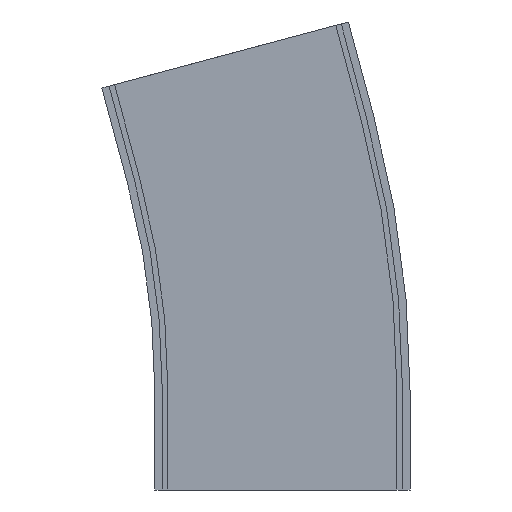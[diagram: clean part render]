
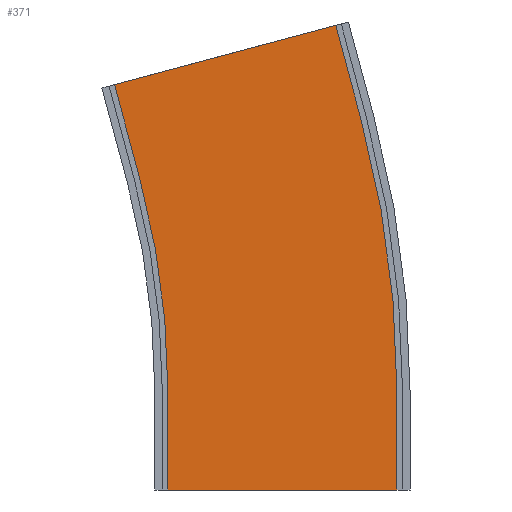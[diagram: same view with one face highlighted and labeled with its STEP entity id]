
A CAD part, left-side view. The second image highlights one B-rep face of the part: STEP entity #371.
In plain terms, the highlighted planar face has unit normal (-1, 0, 0).
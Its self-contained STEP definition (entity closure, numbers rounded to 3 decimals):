
#6 = DIRECTION ( 'NONE',  ( 0., 1., 0. ) ) ;
#10 = CIRCLE ( 'NONE', #487, 561.25 ) ;
#26 = VERTEX_POINT ( 'NONE', #61 ) ;
#36 = VECTOR ( 'NONE', #279, 1000. ) ;
#61 = CARTESIAN_POINT ( 'NONE',  ( -173., 76.2, 166.057 ) ) ;
#75 = CARTESIAN_POINT ( 'NONE',  ( -173., -42.126, 197.762 ) ) ;
#109 = CARTESIAN_POINT ( 'NONE',  ( -173., -61.25, 0. ) ) ;
#117 = DIRECTION ( 'NONE',  ( 0., 0., 1. ) ) ;
#123 = CARTESIAN_POINT ( 'NONE',  ( -173., -61.25, 52.5 ) ) ;
#133 = PLANE ( 'NONE',  #421 ) ;
#166 = VERTEX_POINT ( 'NONE', #291 ) ;
#168 = DIRECTION ( 'NONE',  ( 0., 0., -1. ) ) ;
#176 = VECTOR ( 'NONE', #1296, 1000. ) ;
#184 = CARTESIAN_POINT ( 'NONE',  ( -173., 61.25, 52.5 ) ) ;
#203 = DIRECTION ( 'NONE',  ( 0., 0., 1. ) ) ;
#233 = DIRECTION ( 'NONE',  ( 1., 0., 0. ) ) ;
#234 = DIRECTION ( 'NONE',  ( 0., -0.966, 0.259 ) ) ;
#275 = VERTEX_POINT ( 'NONE', #1060 ) ;
#279 = DIRECTION ( 'NONE',  ( 0., 0.259, 0.966 ) ) ;
#291 = CARTESIAN_POINT ( 'NONE',  ( -173., -61.25, 0. ) ) ;
#295 = ORIENTED_EDGE ( 'NONE', *, *, #982, .T. ) ;
#302 = DIRECTION ( 'NONE',  ( 0., 0., -1. ) ) ;
#309 = CARTESIAN_POINT ( 'NONE',  ( -173., 61.25, 52.5 ) ) ;
#369 = EDGE_CURVE ( 'NONE', #275, #675, #10, .T. ) ;
#371 = ADVANCED_FACE ( 'NONE', ( #1090 ), #133, .F. ) ;
#407 = LINE ( 'NONE', #309, #936 ) ;
#421 = AXIS2_PLACEMENT_3D ( 'NONE', #123, #233, #6 ) ;
#455 = LINE ( 'NONE', #75, #1050 ) ;
#487 = AXIS2_PLACEMENT_3D ( 'NONE', #564, #656, #117 ) ;
#494 = ORIENTED_EDGE ( 'NONE', *, *, #746, .F. ) ;
#507 = LINE ( 'NONE', #600, #36 ) ;
#554 = CIRCLE ( 'NONE', #793, 438.75 ) ;
#564 = CARTESIAN_POINT ( 'NONE',  ( -173., 500., 52.5 ) ) ;
#600 = CARTESIAN_POINT ( 'NONE',  ( -173., 76.2, 166.057 ) ) ;
#605 = CARTESIAN_POINT ( 'NONE',  ( -173., -28.538, 248.473 ) ) ;
#616 = CARTESIAN_POINT ( 'NONE',  ( -173., -61.25, 52.5 ) ) ;
#654 = LINE ( 'NONE', #1085, #1362 ) ;
#656 = DIRECTION ( 'NONE',  ( -1., 0., 0. ) ) ;
#675 = VERTEX_POINT ( 'NONE', #929 ) ;
#676 = CARTESIAN_POINT ( 'NONE',  ( -173., 89.788, 216.768 ) ) ;
#712 = ORIENTED_EDGE ( 'NONE', *, *, #1013, .T. ) ;
#718 = CARTESIAN_POINT ( 'NONE',  ( -173., 61.25, 0. ) ) ;
#741 = VERTEX_POINT ( 'NONE', #718 ) ;
#746 = EDGE_CURVE ( 'NONE', #26, #1124, #507, .T. ) ;
#758 = ORIENTED_EDGE ( 'NONE', *, *, #1131, .T. ) ;
#784 = EDGE_CURVE ( 'NONE', #1248, #26, #554, .T. ) ;
#790 = ORIENTED_EDGE ( 'NONE', *, *, #784, .F. ) ;
#793 = AXIS2_PLACEMENT_3D ( 'NONE', #956, #834, #203 ) ;
#820 = ORIENTED_EDGE ( 'NONE', *, *, #369, .T. ) ;
#834 = DIRECTION ( 'NONE',  ( -1., 0., 0. ) ) ;
#860 = ORIENTED_EDGE ( 'NONE', *, *, #1206, .F. ) ;
#918 = LINE ( 'NONE', #109, #176 ) ;
#929 = CARTESIAN_POINT ( 'NONE',  ( -173., -42.126, 197.762 ) ) ;
#936 = VECTOR ( 'NONE', #302, 1000. ) ;
#956 = CARTESIAN_POINT ( 'NONE',  ( -173., 500., 52.5 ) ) ;
#982 = EDGE_CURVE ( 'NONE', #1248, #741, #407, .T. ) ;
#1013 = EDGE_CURVE ( 'NONE', #741, #166, #918, .T. ) ;
#1050 = VECTOR ( 'NONE', #1259, 1000. ) ;
#1060 = CARTESIAN_POINT ( 'NONE',  ( -173., -61.25, 52.5 ) ) ;
#1085 = CARTESIAN_POINT ( 'NONE',  ( -173., -28.538, 248.473 ) ) ;
#1090 = FACE_OUTER_BOUND ( 'NONE', #1149, .T. ) ;
#1097 = EDGE_CURVE ( 'NONE', #1124, #1230, #654, .T. ) ;
#1124 = VERTEX_POINT ( 'NONE', #676 ) ;
#1131 = EDGE_CURVE ( 'NONE', #675, #1230, #455, .T. ) ;
#1149 = EDGE_LOOP ( 'NONE', ( #712, #860, #820, #758, #1371, #494, #790, #295 ) ) ;
#1175 = LINE ( 'NONE', #616, #1192 ) ;
#1192 = VECTOR ( 'NONE', #168, 1000. ) ;
#1206 = EDGE_CURVE ( 'NONE', #275, #166, #1175, .T. ) ;
#1230 = VERTEX_POINT ( 'NONE', #605 ) ;
#1248 = VERTEX_POINT ( 'NONE', #184 ) ;
#1259 = DIRECTION ( 'NONE',  ( 0., 0.259, 0.966 ) ) ;
#1296 = DIRECTION ( 'NONE',  ( 0., -1., 0. ) ) ;
#1362 = VECTOR ( 'NONE', #234, 1000. ) ;
#1371 = ORIENTED_EDGE ( 'NONE', *, *, #1097, .F. ) ;
